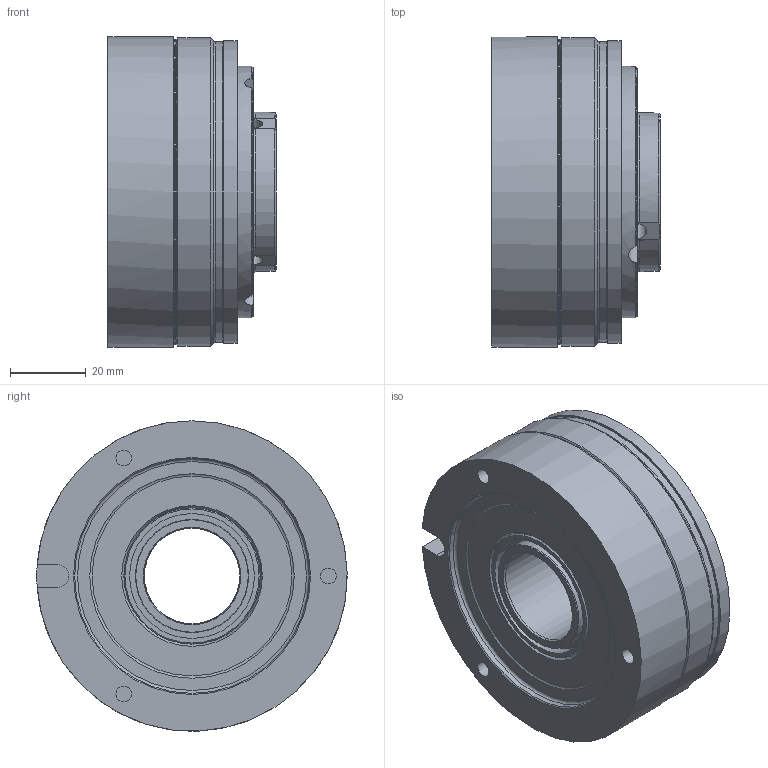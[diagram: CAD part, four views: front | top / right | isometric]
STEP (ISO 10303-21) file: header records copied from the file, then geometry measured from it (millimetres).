
FILE_DESCRIPTION (( 'STEP AP214' ), '1' );
FILE_NAME ('86_61108Pxx_PFID110613_Idx_e.STEP', '2023-02-14T13:55:11', ( '' ), ( '' ), 'SwSTEP 2.0', 'SolidWorks 2018', '' );
FILE_SCHEMA (( 'AUTOMOTIVE_DESIGN' ));
Length unit declared in the file: millimetre
Products named in the file (1): 86_61108Pxx_PFID110613_Idx_e
Bounding box: 44.4 x 82 x 82 mm (x, y, z)
Volume: 163184.7 mm3; surface area: 38703.1 mm2
Topology: 2 solids, 2 shells, 87 faces, 191 edges, 122 vertices
Faces by surface type: plane 33, cylinder 26, cone 16, torus 12
Full cylindrical faces by diameter (mm): 4.2 x6, 25.2 x1, 25.4 x1, 29.9 x1, 29.92 x1, 33 x2, 36 x1, 37.6 x1, 62 x1, 63.2 x1, 66.5 x1, 79.4 x1, 80 x1, 80.5 x1, 81.5 x1, 82 x1
Entity records: 2619 total; most frequent: CARTESIAN_POINT 758, DIRECTION 360, ORIENTED_EDGE 300, AXIS2_PLACEMENT_3D 167, EDGE_CURVE 150, EDGE_LOOP 149, VERTEX_POINT 119, FACE_OUTER_BOUND 115
